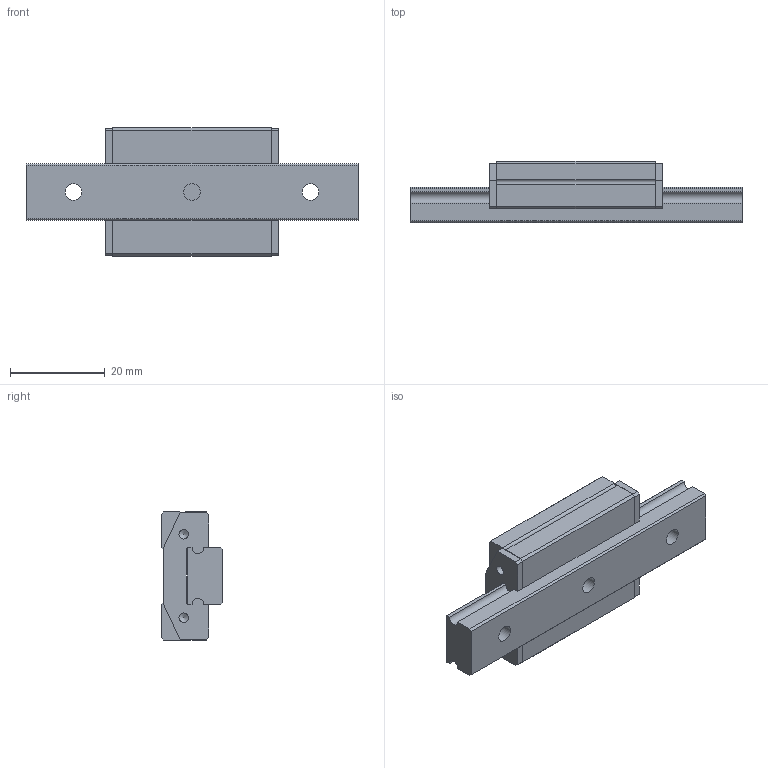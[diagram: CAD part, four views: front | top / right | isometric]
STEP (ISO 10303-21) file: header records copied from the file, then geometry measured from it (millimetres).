
FILE_DESCRIPTION(/* description */ ('STEP AP214'),/* implementation_level */ '2;1');
FILE_NAME(/* name */ 'Minirail 1MNN 12-70-10-10-G3-V0-(1)',/* time_stamp */ '2025-04-23T10:18:25+02:00',/* author */ ('License CC BY-ND 4.0'),/* organization */ ('CADENAS'),/* preprocessor_version */ 'ST-DEVELOPER v19.3',/* originating_system */ 'PARTsolutions',/* authorisation */ ' ');
FILE_SCHEMA (('AUTOMOTIVE_DESIGN {1 0 10303 214 3 1 1}'));
Length unit declared in the file: millimetre
Products named in the file (4): Minirail 1MNN 12-70-10-10-G3-V0-(1); Rail 1 MN12-70-10-10-G3-V0(1); Carriage-MNN12; Wiper-MN12
Assembly tree (4 placements, depth 2):
  Minirail 1MNN 12-70-10-10-G3-V0-(1)
    Rail 1 MN12-70-10-10-G3-V0(1)
    Carriage-MNN12
    Wiper-MN12  x2
Bounding box: 70 x 13 x 27 mm (x, y, z)
Volume: 12766.8 mm3; surface area: 8027.8 mm2
Topology: 4 solids, 4 shells, 125 faces, 320 edges, 210 vertices
Faces by surface type: plane 78, cylinder 31, cone 16
Full cylindrical faces by diameter (mm): 2 x4, 2.459 x4, 3.5 x3, 4 x8, 6 x3
Entity records: 2813 total; most frequent: DIRECTION 464, CARTESIAN_POINT 464, ORIENTED_EDGE 408, EDGE_CURVE 204, VERTEX_POINT 158, AXIS2_PLACEMENT_3D 158, FACE_BOUND 152, LINE 148
